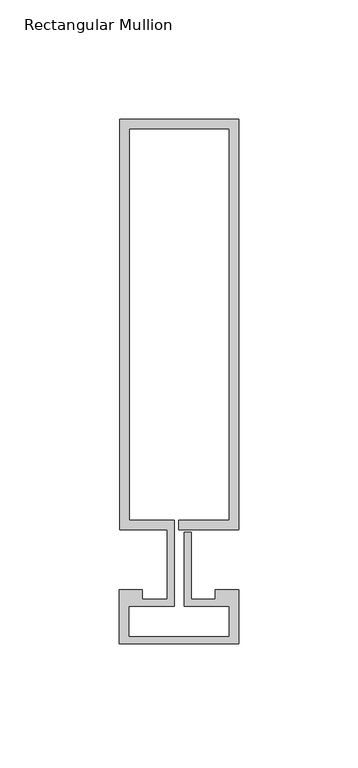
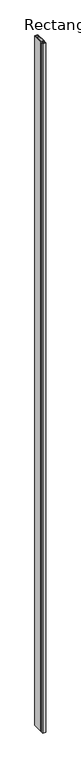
"""IFC4 building model written with IfcOpenShell, lengths in millimetres: member geometry, Rectangular Mullion : Reynaers_CW-50_Mullion-Transom_Horizontal_172.4mm_Facecap-02C."""

from ifc_helpers import new_model, si_unit, frame, origin, place, context, project, spatial, polyline, outline, extrude, source, transform, mapped, element, save


def rectangular_mullion_c3005a8d(model_context):
    return source(origin(), model_context, "Body", "SweptSolid", [
        extrude(outline(polyline([(-24.8004059, 184.9), (25.1995941, 184.9), (25.1995941, 12.5), (0.0, 12.5), (0.0, 16.5), (21.1995941, 16.5), (21.1995941, 180.9), (-20.8004059, 180.9), (-20.8004059, 16.5), (-1.9004059, 16.5), (-1.9004059, -19.5), (-20.994845, -19.5), (-20.994845, -32.2191338), (21.1995941, -32.2191338), (21.1995941, -19.5), (2.2995941, -19.5), (2.2995941, 11.5), (5.2995941, 11.5), (5.2995941, -16.5), (15.2996495, -16.5), (15.2996495, -12.5), (25.1995941, -12.5), (25.1995941, -35.3), (-24.994845, -35.3), (-24.994845, -12.5), (-15.2996495, -12.5), (-15.2996495, -16.5), (-4.9004059, -16.5), (-4.9004059, 12.5), (-24.8004059, 12.5), (-24.8004059, 184.9)])), frame((0.0, 0.0, -12000.0), z_axis=(0.0, 0.0, 1.0), x_axis=(1.0, 0.0, 0.0)), (0.0, 0.0, 1.0), 12000.0),
    ])


if __name__ == "__main__":
    model = new_model("IFC4")
    model_context = context("Model", 3, world=origin())
    ifc_project = project(units=[si_unit("LENGTHUNIT", "METRE", prefix="MILLI")], contexts=[model_context])
    site = spatial("IfcSite", under=ifc_project)
    building = spatial("IfcBuilding", under=site)
    placement = place(None, origin())
    rectangular_mullion_shape = rectangular_mullion_c3005a8d(model_context)
    element("IfcMember", 1, ObjectType="Rectangular Mullion : Reynaers_CW-50_Mullion-Transom_Horizontal_172.4mm_Facecap-02C", at=placement, inside=building, context=model_context, shape_type="MappedRepresentation", body=[
        mapped(rectangular_mullion_shape, transform((0.0, 0.0, 0.0), x_axis=(1.0, 0.0, 0.0), y_axis=(0.0, 1.0, 0.0), z_axis=(0.0, 0.0, 1.0))),
    ])
    save(model, "model.ifc")
